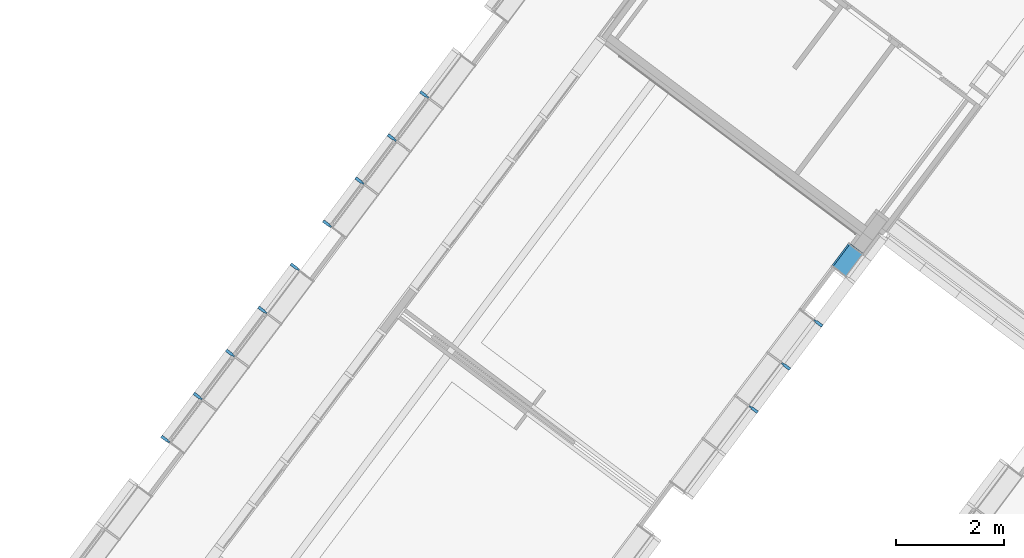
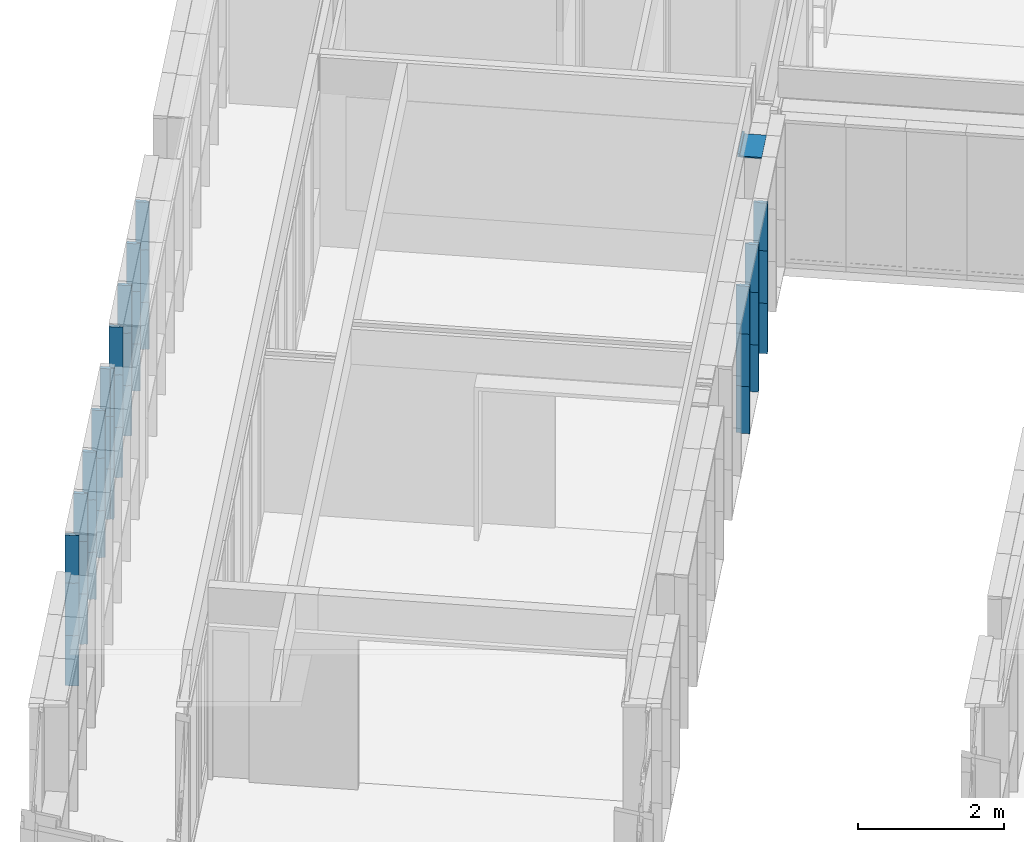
# One storey, part 99 of 243: 37 members, 3 elements without a shape of their own.
"""IFC2X3 building model written with IfcOpenShell, lengths in metres."""

from ifc_helpers import new_model, entity, si_unit, converted_unit, derived_unit, direction, frame, origin, place, context, subcontext, project, spatial, polyline, outline, extrude, source, transform, mapped, material, type_object, type_shapes, element, aggregate, save


model = new_model("IFC2X3")

# Units and contexts
model_context = context("Model", 3, precision=1e-05, world=origin(), true_north=direction((6.123031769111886e-17, 1.0)))
body_context = subcontext(model_context, "Body", "Model", "MODEL_VIEW")
ifc_project = project(units=[si_unit("LENGTHUNIT", "METRE"), si_unit("AREAUNIT", "SQUARE_METRE"), si_unit("VOLUMEUNIT", "CUBIC_METRE"), converted_unit("PLANEANGLEUNIT", "DEGREE", entity("IfcRatioMeasure", 0.017453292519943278), si_unit("PLANEANGLEUNIT", "RADIAN"), dimensions=[0, 0, 0, 0, 0, 0, 0]), si_unit("MASSUNIT", "GRAM", prefix="KILO"), derived_unit("MASSDENSITYUNIT", [(si_unit("MASSUNIT", "GRAM", prefix="KILO"), 1), (si_unit("LENGTHUNIT", "METRE"), -3)]), derived_unit("IONCONCENTRATIONUNIT", [(si_unit("MASSUNIT", "GRAM", prefix="KILO"), 1), (si_unit("LENGTHUNIT", "METRE"), -3)]), derived_unit("MOMENTOFINERTIAUNIT", [(si_unit("LENGTHUNIT", "METRE"), 4)]), si_unit("TIMEUNIT", "SECOND"), si_unit("FREQUENCYUNIT", "HERTZ"), si_unit("THERMODYNAMICTEMPERATUREUNIT", "DEGREE_CELSIUS"), derived_unit("THERMALTRANSMITTANCEUNIT", [(si_unit("MASSUNIT", "GRAM", prefix="KILO"), 1), (si_unit("THERMODYNAMICTEMPERATUREUNIT", "KELVIN"), -1), (si_unit("TIMEUNIT", "SECOND"), -3)]), derived_unit("THERMALCONDUCTANCEUNIT", [(si_unit("MASSUNIT", "GRAM", prefix="KILO"), 1), (si_unit("THERMODYNAMICTEMPERATUREUNIT", "KELVIN"), -1), (si_unit("TIMEUNIT", "SECOND"), -3), (si_unit("LENGTHUNIT", "METRE"), 1)]), derived_unit("VOLUMETRICFLOWRATEUNIT", [(si_unit("LENGTHUNIT", "METRE"), 3), (si_unit("TIMEUNIT", "SECOND"), -1)]), derived_unit("MASSFLOWRATEUNIT", [(si_unit("MASSUNIT", "GRAM", prefix="KILO"), 1), (si_unit("TIMEUNIT", "SECOND"), -1)]), derived_unit("ROTATIONALFREQUENCYUNIT", [(si_unit("TIMEUNIT", "SECOND"), -1)]), si_unit("ELECTRICCURRENTUNIT", "AMPERE"), si_unit("ELECTRICVOLTAGEUNIT", "VOLT"), si_unit("POWERUNIT", "WATT"), si_unit("FORCEUNIT", "NEWTON", prefix="KILO"), si_unit("ILLUMINANCEUNIT", "LUX"), si_unit("LUMINOUSFLUXUNIT", "LUMEN"), si_unit("LUMINOUSINTENSITYUNIT", "CANDELA"), derived_unit("USERDEFINED", [(si_unit("MASSUNIT", "GRAM", prefix="KILO"), -1), (si_unit("LENGTHUNIT", "METRE"), -2), (si_unit("TIMEUNIT", "SECOND"), 3), (si_unit("LUMINOUSFLUXUNIT", "LUMEN"), 1)]), derived_unit("USERDEFINED", [(si_unit("MASSUNIT", "GRAM", prefix="KILO"), 1), (si_unit("TIMEUNIT", "SECOND"), -3), (si_unit("LENGTHUNIT", "METRE"), 3), (si_unit("ELECTRICCURRENTUNIT", "AMPERE"), -2)]), derived_unit("SOUNDPOWERUNIT", [(si_unit("MASSUNIT", "GRAM", prefix="KILO"), 1), (si_unit("TIMEUNIT", "SECOND"), -3), (si_unit("LENGTHUNIT", "METRE"), 2)]), derived_unit("SOUNDPRESSUREUNIT", [(si_unit("MASSUNIT", "GRAM", prefix="KILO"), 1), (si_unit("LENGTHUNIT", "METRE"), -1), (si_unit("TIMEUNIT", "SECOND"), -2)]), derived_unit("LINEARVELOCITYUNIT", [(si_unit("LENGTHUNIT", "METRE"), 1), (si_unit("TIMEUNIT", "SECOND"), -1)]), si_unit("PRESSUREUNIT", "PASCAL"), derived_unit("USERDEFINED", [(si_unit("MASSUNIT", "GRAM", prefix="KILO"), 1), (si_unit("LENGTHUNIT", "METRE"), -2), (si_unit("TIMEUNIT", "SECOND"), -2)]), derived_unit("LINEARFORCEUNIT", [(si_unit("MASSUNIT", "GRAM", prefix="KILO"), 1), (si_unit("TIMEUNIT", "SECOND"), -2)]), derived_unit("PLANARFORCEUNIT", [(si_unit("MASSUNIT", "GRAM", prefix="KILO"), 1), (si_unit("LENGTHUNIT", "METRE"), -1), (si_unit("TIMEUNIT", "SECOND"), -2)]), derived_unit("SPECIFICHEATCAPACITYUNIT", [(si_unit("THERMODYNAMICTEMPERATUREUNIT", "KELVIN"), -1), (si_unit("LENGTHUNIT", "METRE"), 2), (si_unit("TIMEUNIT", "SECOND"), -2)]), derived_unit("HEATINGVALUEUNIT", [(si_unit("LENGTHUNIT", "METRE"), 2), (si_unit("TIMEUNIT", "SECOND"), -2)]), derived_unit("VAPORPERMEABILITYUNIT", [(si_unit("LENGTHUNIT", "METRE"), -1), (si_unit("TIMEUNIT", "SECOND"), 1)]), derived_unit("DYNAMICVISCOSITYUNIT", [(si_unit("MASSUNIT", "GRAM", prefix="KILO"), 1), (si_unit("TIMEUNIT", "SECOND"), -1), (si_unit("LENGTHUNIT", "METRE"), -1)]), derived_unit("THERMALEXPANSIONCOEFFICIENTUNIT", [(si_unit("THERMODYNAMICTEMPERATUREUNIT", "KELVIN"), -1)]), derived_unit("MODULUSOFELASTICITYUNIT", [(si_unit("MASSUNIT", "GRAM", prefix="KILO"), 1), (si_unit("LENGTHUNIT", "METRE"), -1), (si_unit("TIMEUNIT", "SECOND"), -2)]), derived_unit("ISOTHERMALMOISTURECAPACITYUNIT", [(si_unit("LENGTHUNIT", "METRE"), 3), (si_unit("MASSUNIT", "GRAM", prefix="KILO"), -1)]), derived_unit("MOISTUREDIFFUSIVITYUNIT", [(si_unit("TIMEUNIT", "SECOND"), -1), (si_unit("LENGTHUNIT", "METRE"), 2)])], contexts=[model_context])

# Site, building, storey
site_placement = place(None, frame((0.0, 0.0, 235.0), z_axis=(0.0, 0.0, 1.0), x_axis=(-0.7996477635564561, 0.6004693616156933, 0.0)))
site = spatial("IfcSite", under=ifc_project, at=site_placement, Name="Default", CompositionType="ELEMENT")
building_placement = place(site_placement, origin())
building = spatial("IfcBuilding", under=site, at=building_placement, CompositionType="ELEMENT")
storey_placement = place(building_placement, origin())
storey = spatial("IfcBuildingStorey", under=building, at=storey_placement, Name="P0- Escola", CompositionType="ELEMENT", Elevation=0.0)

# Curtain wall, members
curtain_wall_type_1 = type_object("IfcCurtainWallType", Name="Muro cortina:MC- EXT- MC2", PredefinedType="NOTDEFINED")
curtain_wall_1_placement = place(storey_placement, origin())
curtain_wall_1 = element("IfcCurtainWall", 1, at=curtain_wall_1_placement, inside=storey, type_object=curtain_wall_type_1, Name="Muro cortina:MC- EXT- MC2", ObjectType="Muro cortina:MC- EXT- MC2")
ifc_material_1 = material(Name="_Alumini- T1- Perfil")
member_type_1 = type_object("IfcMemberType", Name="Montante rectangular:MC- Alu- 140x52,5 cm- Fa patis- Centre", PredefinedType="MULLION", material=ifc_material_1)
shared_shape_1 = source(origin(), body_context, "Body", "SweptSolid", [
    extrude(outline(polyline([(-0.11699999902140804, -0.026250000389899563), (0.021999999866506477, -0.026250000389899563), (0.021999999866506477, -0.01500000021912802), (0.07299999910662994, -0.01500000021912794), (0.07299999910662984, 0.015000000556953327), (0.02200000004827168, 0.015000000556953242), (0.02200000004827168, 0.026250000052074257), (-0.11699999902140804, 0.026250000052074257), (-0.11699999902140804, -0.026250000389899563)])), frame((0.0, 0.022999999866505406, -0.8400000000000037), z_axis=(0.0, 0.0, 1.0), x_axis=(0.0, -1.0, 0.0)), (0.0, 0.0, 1.0), 0.8400000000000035),
])
type_shapes(member_type_1, [shared_shape_1])
member_1_placement = place(curtain_wall_1_placement, frame((66.44514768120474, -34.415191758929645, -0.02), z_axis=(0.0, 0.0, -1.0), x_axis=(0.0, -1.0, 0.0)))
member_1 = element("IfcMember", 2, at=member_1_placement, type_object=member_type_1, material=ifc_material_1, Name="Montante rectangular:MC- Alu- 140x52,5 cm- Fa patis- Centre", ObjectType="Montante rectangular:MC- Alu- 140x52,5 cm- Fa patis- Centre", context=body_context, shape_type="MappedRepresentation", body=[
    mapped(shared_shape_1, transform((0.0, 0.0, 0.0), scale=1.0)),
])
member_type_2 = type_object("IfcMemberType", Name="Montante rectangular:MC- Alu- 140x52,5 cm- Fa patis- Centre", PredefinedType="MULLION", material=ifc_material_1)
shared_shape_2 = source(origin(), body_context, "Body", "SweptSolid", [
    extrude(outline(polyline([(-0.11699999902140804, -0.026250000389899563), (0.021999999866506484, -0.026250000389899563), (0.021999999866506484, -0.01500000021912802), (0.07299999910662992, -0.01500000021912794), (0.07299999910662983, 0.015000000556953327), (0.022000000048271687, 0.015000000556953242), (0.022000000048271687, 0.026250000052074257), (-0.11699999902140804, 0.026250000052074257), (-0.11699999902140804, -0.026250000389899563)])), frame((0.0, 0.022999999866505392, -0.7850000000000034), z_axis=(0.0, 0.0, 1.0), x_axis=(0.0, -1.0, 0.0)), (0.0, 0.0, 1.0), 0.7850000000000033),
])
type_shapes(member_type_2, [shared_shape_2])
member_2_placement = place(curtain_wall_1_placement, frame((66.44514768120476, -32.41519175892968, 0.035000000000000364), z_axis=(0.0, 0.0, -1.0), x_axis=(0.0, -1.0, 0.0)))
member_2 = element("IfcMember", 3, at=member_2_placement, type_object=member_type_2, material=ifc_material_1, Name="Montante rectangular:MC- Alu- 140x52,5 cm- Fa patis- Centre", ObjectType="Montante rectangular:MC- Alu- 140x52,5 cm- Fa patis- Centre", context=body_context, shape_type="MappedRepresentation", body=[
    mapped(shared_shape_2, transform((0.0, 0.0, 0.0), scale=1.0)),
])
member_3_placement = place(curtain_wall_1_placement, frame((66.44514768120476, -33.41519175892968, 0.035000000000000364), z_axis=(0.0, 0.0, -1.0), x_axis=(0.0, -1.0, 0.0)))
member_3 = element("IfcMember", 4, at=member_3_placement, type_object=member_type_2, material=ifc_material_1, Name="Montante rectangular:MC- Alu- 140x52,5 cm- Fa patis- Centre", ObjectType="Montante rectangular:MC- Alu- 140x52,5 cm- Fa patis- Centre", context=body_context, shape_type="MappedRepresentation", body=[
    mapped(shared_shape_2, transform((0.0, 0.0, 0.0), scale=1.0)),
])
member_type_3 = type_object("IfcMemberType", Name="Montante rectangular:MC- Alu- 140x52,5 cm- Fa patis- Centre", PredefinedType="MULLION", material=ifc_material_1)
shared_shape_3 = source(origin(), body_context, "Body", "SweptSolid", [
    extrude(outline(polyline([(-0.11699999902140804, -0.026250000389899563), (0.021999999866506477, -0.026250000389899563), (0.021999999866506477, -0.01500000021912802), (0.07299999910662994, -0.01500000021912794), (0.07299999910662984, 0.015000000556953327), (0.02200000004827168, 0.015000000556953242), (0.02200000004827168, 0.026250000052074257), (-0.11699999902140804, 0.026250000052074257), (-0.11699999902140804, -0.026250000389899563)])), frame((0.0, 0.022999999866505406, -0.8750000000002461), z_axis=(0.0, 0.0, 1.0), x_axis=(0.0, -1.0, 0.0)), (0.0, 0.0, 1.0), 0.8750000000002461),
])
type_shapes(member_type_3, [shared_shape_3])
member_4_placement = place(curtain_wall_1_placement, frame((66.44514768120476, -32.41519175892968, 0.8200000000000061), z_axis=(0.0, 0.0, -1.0), x_axis=(0.0, -1.0, 0.0)))
member_4 = element("IfcMember", 5, at=member_4_placement, type_object=member_type_3, material=ifc_material_1, Name="Montante rectangular:MC- Alu- 140x52,5 cm- Fa patis- Centre", ObjectType="Montante rectangular:MC- Alu- 140x52,5 cm- Fa patis- Centre", context=body_context, shape_type="MappedRepresentation", body=[
    mapped(shared_shape_3, transform((0.0, 0.0, 0.0), scale=1.0)),
])
member_5_placement = place(curtain_wall_1_placement, frame((66.44514768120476, -33.41519175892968, 0.8200000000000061), z_axis=(0.0, 0.0, -1.0), x_axis=(0.0, -1.0, 0.0)))
member_5 = element("IfcMember", 6, at=member_5_placement, type_object=member_type_3, material=ifc_material_1, Name="Montante rectangular:MC- Alu- 140x52,5 cm- Fa patis- Centre", ObjectType="Montante rectangular:MC- Alu- 140x52,5 cm- Fa patis- Centre", context=body_context, shape_type="MappedRepresentation", body=[
    mapped(shared_shape_3, transform((0.0, 0.0, 0.0), scale=1.0)),
])
member_6_placement = place(curtain_wall_1_placement, frame((66.44514768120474, -34.415191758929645, 0.8200000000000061), z_axis=(0.0, 0.0, -1.0), x_axis=(0.0, -1.0, 0.0)))
member_6 = element("IfcMember", 7, at=member_6_placement, type_object=member_type_3, material=ifc_material_1, Name="Montante rectangular:MC- Alu- 140x52,5 cm- Fa patis- Centre", ObjectType="Montante rectangular:MC- Alu- 140x52,5 cm- Fa patis- Centre", context=body_context, shape_type="MappedRepresentation", body=[
    mapped(shared_shape_3, transform((0.0, 0.0, 0.0), scale=1.0)),
])

# Curtain wall, member
curtain_wall_type_2 = type_object("IfcCurtainWallType", Name="Muro cortina:MC- INT- k7- Aules infantil", PredefinedType="NOTDEFINED")
curtain_wall_2_placement = place(storey_placement, origin())
curtain_wall_2 = element("IfcCurtainWall", 8, at=curtain_wall_2_placement, inside=storey, type_object=curtain_wall_type_2, Name="Muro cortina:MC- INT- k7- Aules infantil", ObjectType="Muro cortina:MC- INT- k7- Aules infantil")
ifc_material_2 = material(Name="_Fusta massisa- T1")
member_type_4 = type_object("IfcMemberType", Name="Montante rectangular:MC- Fusta- 35x3 cm- Pati aules- Remat superior", PredefinedType="MULLION", material=ifc_material_2)
shared_shape_4 = source(origin(), body_context, "Body", "SweptSolid", [
    extrude(outline(polyline([(-0.21333333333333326, -0.02666666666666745), (0.1216666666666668, -0.02666666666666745), (0.12166666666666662, 0.03333333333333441), (0.09166666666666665, 0.03333333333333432), (0.09166666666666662, -0.006666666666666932), (-0.2133333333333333, -0.006666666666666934), (-0.21333333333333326, -0.02666666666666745)])), frame((-0.033333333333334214, 0.026666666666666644, -0.5379982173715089), z_axis=(0.0, 0.0, 1.0), x_axis=(0.0, -1.0, 0.0)), (0.0, 0.0, 1.0), 0.5379982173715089),
])
type_shapes(member_type_4, [shared_shape_4])
member_7_placement = place(curtain_wall_2_placement, frame((66.745147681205, -35.9531899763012, 2.565), z_axis=(0.0, -1.0, 0.0), x_axis=(0.0, 0.0, 1.0)))
member_7 = element("IfcMember", 9, at=member_7_placement, type_object=member_type_4, material=ifc_material_2, Name="Montante rectangular:MC- Fusta- 35x3 cm- Pati aules- Remat superior", ObjectType="Montante rectangular:MC- Fusta- 35x3 cm- Pati aules- Remat superior", context=body_context, shape_type="MappedRepresentation", body=[
    mapped(shared_shape_4, transform((0.0, 0.0, 0.0), scale=1.0)),
])
aggregate(curtain_wall_2, [member_7])

# Member
member_type_5 = type_object("IfcMemberType", Name="Montante rectangular:MC- Alu- 140x52,5 cm- Fa patis- Centre", PredefinedType="MULLION", material=ifc_material_1)
shared_shape_5 = source(origin(), body_context, "Body", "SweptSolid", [
    extrude(outline(polyline([(-0.11699999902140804, -0.026250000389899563), (0.021999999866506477, -0.026250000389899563), (0.021999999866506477, -0.01500000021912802), (0.07299999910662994, -0.01500000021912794), (0.07299999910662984, 0.015000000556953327), (0.02200000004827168, 0.015000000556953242), (0.02200000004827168, 0.026250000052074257), (-0.11699999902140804, 0.026250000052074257), (-0.11699999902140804, -0.026250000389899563)])), frame((0.0, 0.022999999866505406, -0.79749999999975), z_axis=(0.0, 0.0, 1.0), x_axis=(0.0, -1.0, 0.0)), (0.0, 0.0, 1.0), 0.79749999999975),
])
type_shapes(member_type_5, [shared_shape_5])
member_8_placement = place(curtain_wall_1_placement, frame((66.44514768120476, -32.41519175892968, 1.6950000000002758), z_axis=(0.0, 0.0, -1.0), x_axis=(0.0, -1.0, 0.0)))
member_8 = element("IfcMember", 10, at=member_8_placement, type_object=member_type_5, material=ifc_material_1, Name="Montante rectangular:MC- Alu- 140x52,5 cm- Fa patis- Centre", ObjectType="Montante rectangular:MC- Alu- 140x52,5 cm- Fa patis- Centre", context=body_context, shape_type="MappedRepresentation", body=[
    mapped(shared_shape_5, transform((0.0, 0.0, 0.0), scale=1.0)),
])

member_9_placement = place(curtain_wall_1_placement, frame((66.44514768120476, -33.41519175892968, 1.6950000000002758), z_axis=(0.0, 0.0, -1.0), x_axis=(0.0, -1.0, 0.0)))
member_9 = element("IfcMember", 11, at=member_9_placement, type_object=member_type_5, material=ifc_material_1, Name="Montante rectangular:MC- Alu- 140x52,5 cm- Fa patis- Centre", ObjectType="Montante rectangular:MC- Alu- 140x52,5 cm- Fa patis- Centre", context=body_context, shape_type="MappedRepresentation", body=[
    mapped(shared_shape_5, transform((0.0, 0.0, 0.0), scale=1.0)),
])

member_10_placement = place(curtain_wall_1_placement, frame((66.44514768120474, -34.415191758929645, 1.6950000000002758), z_axis=(0.0, 0.0, -1.0), x_axis=(0.0, -1.0, 0.0)))
member_10 = element("IfcMember", 12, at=member_10_placement, type_object=member_type_5, material=ifc_material_1, Name="Montante rectangular:MC- Alu- 140x52,5 cm- Fa patis- Centre", ObjectType="Montante rectangular:MC- Alu- 140x52,5 cm- Fa patis- Centre", context=body_context, shape_type="MappedRepresentation", body=[
    mapped(shared_shape_5, transform((0.0, 0.0, 0.0), scale=1.0)),
])

aggregate(curtain_wall_1, [member_2, member_3, member_1, member_4, member_5, member_6, member_8, member_9, member_10])

# Curtain wall, members
curtain_wall_type_3 = type_object("IfcCurtainWallType", Name="Muro cortina:MC- EXT- MC5", PredefinedType="NOTDEFINED")
curtain_wall_3_placement = place(storey_placement, origin())
curtain_wall_3 = element("IfcCurtainWall", 13, at=curtain_wall_3_placement, inside=storey, type_object=curtain_wall_type_3, Name="Muro cortina:MC- EXT- MC5", ObjectType="Muro cortina:MC- EXT- MC5")
member_type_6 = type_object("IfcMemberType", Name="Montante rectangular:MC- Alu- 140x52,5 cm- Fa patis- Centre", PredefinedType="MULLION", material=ifc_material_1)
shared_shape_6 = source(origin(), body_context, "Body", "SweptSolid", [
    extrude(outline(polyline([(-0.021999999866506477, -0.026250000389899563), (0.11699999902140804, -0.026250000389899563), (0.11699999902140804, 0.026250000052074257), (-0.02200000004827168, 0.026250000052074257), (-0.02200000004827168, 0.015000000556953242), (-0.07299999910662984, 0.015000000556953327), (-0.07299999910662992, -0.01500000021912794), (-0.021999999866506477, -0.01500000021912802), (-0.021999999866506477, -0.026250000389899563)])), frame((0.0, -0.022999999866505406, -0.8400000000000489), z_axis=(0.0, 0.0, 1.0), x_axis=(0.0, -1.0, 0.0)), (0.0, 0.0, 1.0), 0.8400000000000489),
])
type_shapes(member_type_6, [shared_shape_6])
member_11_placement = place(curtain_wall_3_placement, frame((74.7451476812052, -26.415191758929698, -0.02), z_axis=(0.0, 0.0, -1.0), x_axis=(0.0, -1.0, 0.0)))
member_11 = element("IfcMember", 14, at=member_11_placement, type_object=member_type_6, material=ifc_material_1, Name="Montante rectangular:MC- Alu- 140x52,5 cm- Fa patis- Centre", ObjectType="Montante rectangular:MC- Alu- 140x52,5 cm- Fa patis- Centre", context=body_context, shape_type="MappedRepresentation", body=[
    mapped(shared_shape_6, transform((0.0, 0.0, 0.0), scale=1.0)),
])
member_12_placement = place(curtain_wall_3_placement, frame((74.74514768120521, -29.41519175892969, -0.02), z_axis=(0.0, 0.0, -1.0), x_axis=(0.0, -1.0, 0.0)))
member_12 = element("IfcMember", 15, at=member_12_placement, type_object=member_type_6, material=ifc_material_1, Name="Montante rectangular:MC- Alu- 140x52,5 cm- Fa patis- Centre", ObjectType="Montante rectangular:MC- Alu- 140x52,5 cm- Fa patis- Centre", context=body_context, shape_type="MappedRepresentation", body=[
    mapped(shared_shape_6, transform((0.0, 0.0, 0.0), scale=1.0)),
])
member_13_placement = place(curtain_wall_3_placement, frame((74.74514768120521, -31.415191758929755, -0.02), z_axis=(0.0, 0.0, -1.0), x_axis=(0.0, -1.0, 0.0)))
member_13 = element("IfcMember", 16, at=member_13_placement, type_object=member_type_6, material=ifc_material_1, Name="Montante rectangular:MC- Alu- 140x52,5 cm- Fa patis- Centre", ObjectType="Montante rectangular:MC- Alu- 140x52,5 cm- Fa patis- Centre", context=body_context, shape_type="MappedRepresentation", body=[
    mapped(shared_shape_6, transform((0.0, 0.0, 0.0), scale=1.0)),
])
member_14_placement = place(curtain_wall_3_placement, frame((74.74514768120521, -30.415191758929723, -0.02), z_axis=(0.0, 0.0, -1.0), x_axis=(0.0, -1.0, 0.0)))
member_14 = element("IfcMember", 17, at=member_14_placement, type_object=member_type_6, material=ifc_material_1, Name="Montante rectangular:MC- Alu- 140x52,5 cm- Fa patis- Centre", ObjectType="Montante rectangular:MC- Alu- 140x52,5 cm- Fa patis- Centre", context=body_context, shape_type="MappedRepresentation", body=[
    mapped(shared_shape_6, transform((0.0, 0.0, 0.0), scale=1.0)),
])
member_15_placement = place(curtain_wall_3_placement, frame((74.7451476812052, -25.415191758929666, -0.02), z_axis=(0.0, 0.0, -1.0), x_axis=(0.0, -1.0, 0.0)))
member_15 = element("IfcMember", 18, at=member_15_placement, type_object=member_type_6, material=ifc_material_1, Name="Montante rectangular:MC- Alu- 140x52,5 cm- Fa patis- Centre", ObjectType="Montante rectangular:MC- Alu- 140x52,5 cm- Fa patis- Centre", context=body_context, shape_type="MappedRepresentation", body=[
    mapped(shared_shape_6, transform((0.0, 0.0, 0.0), scale=1.0)),
])
member_type_7 = type_object("IfcMemberType", Name="Montante rectangular:MC- Alu- 140x52,5 cm- Fa patis- Centre", PredefinedType="MULLION", material=ifc_material_1)
shared_shape_7 = source(origin(), body_context, "Body", "SweptSolid", [
    extrude(outline(polyline([(-0.021999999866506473, -0.026250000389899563), (0.11699999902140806, -0.026250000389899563), (0.11699999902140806, 0.026250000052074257), (-0.022000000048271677, 0.026250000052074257), (-0.022000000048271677, 0.015000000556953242), (-0.07299999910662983, 0.015000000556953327), (-0.07299999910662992, -0.01500000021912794), (-0.021999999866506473, -0.01500000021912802), (-0.021999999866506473, -0.026250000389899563)])), frame((0.0, -0.022999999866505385, -0.7850000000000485), z_axis=(0.0, 0.0, 1.0), x_axis=(0.0, -1.0, 0.0)), (0.0, 0.0, 1.0), 0.7850000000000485),
])
type_shapes(member_type_7, [shared_shape_7])
member_16_placement = place(curtain_wall_3_placement, frame((74.7451476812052, -27.415191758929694, 0.035000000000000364), z_axis=(0.0, 0.0, -1.0), x_axis=(0.0, -1.0, 0.0)))
member_16 = element("IfcMember", 19, at=member_16_placement, type_object=member_type_7, material=ifc_material_1, Name="Montante rectangular:MC- Alu- 140x52,5 cm- Fa patis- Centre", ObjectType="Montante rectangular:MC- Alu- 140x52,5 cm- Fa patis- Centre", context=body_context, shape_type="MappedRepresentation", body=[
    mapped(shared_shape_7, transform((0.0, 0.0, 0.0), scale=1.0)),
])
member_17_placement = place(curtain_wall_3_placement, frame((74.74514768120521, -28.415191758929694, 0.035000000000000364), z_axis=(0.0, 0.0, -1.0), x_axis=(0.0, -1.0, 0.0)))
member_17 = element("IfcMember", 20, at=member_17_placement, type_object=member_type_7, material=ifc_material_1, Name="Montante rectangular:MC- Alu- 140x52,5 cm- Fa patis- Centre", ObjectType="Montante rectangular:MC- Alu- 140x52,5 cm- Fa patis- Centre", context=body_context, shape_type="MappedRepresentation", body=[
    mapped(shared_shape_7, transform((0.0, 0.0, 0.0), scale=1.0)),
])
member_18_placement = place(curtain_wall_3_placement, frame((74.74514768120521, -32.41519175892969, 0.035000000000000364), z_axis=(0.0, 0.0, -1.0), x_axis=(0.0, -1.0, 0.0)))
member_18 = element("IfcMember", 21, at=member_18_placement, type_object=member_type_7, material=ifc_material_1, Name="Montante rectangular:MC- Alu- 140x52,5 cm- Fa patis- Centre", ObjectType="Montante rectangular:MC- Alu- 140x52,5 cm- Fa patis- Centre", context=body_context, shape_type="MappedRepresentation", body=[
    mapped(shared_shape_7, transform((0.0, 0.0, 0.0), scale=1.0)),
])
member_19_placement = place(curtain_wall_3_placement, frame((74.74514768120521, -33.41519175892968, 0.035000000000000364), z_axis=(0.0, 0.0, -1.0), x_axis=(0.0, -1.0, 0.0)))
member_19 = element("IfcMember", 22, at=member_19_placement, type_object=member_type_7, material=ifc_material_1, Name="Montante rectangular:MC- Alu- 140x52,5 cm- Fa patis- Centre", ObjectType="Montante rectangular:MC- Alu- 140x52,5 cm- Fa patis- Centre", context=body_context, shape_type="MappedRepresentation", body=[
    mapped(shared_shape_7, transform((0.0, 0.0, 0.0), scale=1.0)),
])
member_type_8 = type_object("IfcMemberType", Name="Montante rectangular:MC- Alu- 140x52,5 cm- Fa patis- Centre", PredefinedType="MULLION", material=ifc_material_1)
shared_shape_8 = source(origin(), body_context, "Body", "SweptSolid", [
    extrude(outline(polyline([(-0.021999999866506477, -0.026250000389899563), (0.11699999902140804, -0.026250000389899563), (0.11699999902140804, 0.026250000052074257), (-0.02200000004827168, 0.026250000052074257), (-0.02200000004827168, 0.015000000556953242), (-0.07299999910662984, 0.015000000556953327), (-0.07299999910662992, -0.01500000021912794), (-0.021999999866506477, -0.01500000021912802), (-0.021999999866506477, -0.026250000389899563)])), frame((0.0, -0.022999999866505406, -0.8750000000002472), z_axis=(0.0, 0.0, 1.0), x_axis=(0.0, -1.0, 0.0)), (0.0, 0.0, 1.0), 0.8750000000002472),
])
type_shapes(member_type_8, [shared_shape_8])
member_20_placement = place(curtain_wall_3_placement, frame((74.7451476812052, -25.415191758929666, 0.8200000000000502), z_axis=(0.0, 0.0, -1.0), x_axis=(0.0, -1.0, 0.0)))
member_20 = element("IfcMember", 23, at=member_20_placement, type_object=member_type_8, material=ifc_material_1, Name="Montante rectangular:MC- Alu- 140x52,5 cm- Fa patis- Centre", ObjectType="Montante rectangular:MC- Alu- 140x52,5 cm- Fa patis- Centre", context=body_context, shape_type="MappedRepresentation", body=[
    mapped(shared_shape_8, transform((0.0, 0.0, 0.0), scale=1.0)),
])
member_21_placement = place(curtain_wall_3_placement, frame((74.7451476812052, -26.415191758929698, 0.8200000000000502), z_axis=(0.0, 0.0, -1.0), x_axis=(0.0, -1.0, 0.0)))
member_21 = element("IfcMember", 24, at=member_21_placement, type_object=member_type_8, material=ifc_material_1, Name="Montante rectangular:MC- Alu- 140x52,5 cm- Fa patis- Centre", ObjectType="Montante rectangular:MC- Alu- 140x52,5 cm- Fa patis- Centre", context=body_context, shape_type="MappedRepresentation", body=[
    mapped(shared_shape_8, transform((0.0, 0.0, 0.0), scale=1.0)),
])
member_22_placement = place(curtain_wall_3_placement, frame((74.7451476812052, -27.415191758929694, 0.8200000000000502), z_axis=(0.0, 0.0, -1.0), x_axis=(0.0, -1.0, 0.0)))
member_22 = element("IfcMember", 25, at=member_22_placement, type_object=member_type_8, material=ifc_material_1, Name="Montante rectangular:MC- Alu- 140x52,5 cm- Fa patis- Centre", ObjectType="Montante rectangular:MC- Alu- 140x52,5 cm- Fa patis- Centre", context=body_context, shape_type="MappedRepresentation", body=[
    mapped(shared_shape_8, transform((0.0, 0.0, 0.0), scale=1.0)),
])
member_23_placement = place(curtain_wall_3_placement, frame((74.74514768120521, -28.415191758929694, 0.8200000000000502), z_axis=(0.0, 0.0, -1.0), x_axis=(0.0, -1.0, 0.0)))
member_23 = element("IfcMember", 26, at=member_23_placement, type_object=member_type_8, material=ifc_material_1, Name="Montante rectangular:MC- Alu- 140x52,5 cm- Fa patis- Centre", ObjectType="Montante rectangular:MC- Alu- 140x52,5 cm- Fa patis- Centre", context=body_context, shape_type="MappedRepresentation", body=[
    mapped(shared_shape_8, transform((0.0, 0.0, 0.0), scale=1.0)),
])
member_24_placement = place(curtain_wall_3_placement, frame((74.74514768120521, -29.41519175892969, 0.8200000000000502), z_axis=(0.0, 0.0, -1.0), x_axis=(0.0, -1.0, 0.0)))
member_24 = element("IfcMember", 27, at=member_24_placement, type_object=member_type_8, material=ifc_material_1, Name="Montante rectangular:MC- Alu- 140x52,5 cm- Fa patis- Centre", ObjectType="Montante rectangular:MC- Alu- 140x52,5 cm- Fa patis- Centre", context=body_context, shape_type="MappedRepresentation", body=[
    mapped(shared_shape_8, transform((0.0, 0.0, 0.0), scale=1.0)),
])
member_25_placement = place(curtain_wall_3_placement, frame((74.74514768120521, -30.415191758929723, 0.8200000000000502), z_axis=(0.0, 0.0, -1.0), x_axis=(0.0, -1.0, 0.0)))
member_25 = element("IfcMember", 28, at=member_25_placement, type_object=member_type_8, material=ifc_material_1, Name="Montante rectangular:MC- Alu- 140x52,5 cm- Fa patis- Centre", ObjectType="Montante rectangular:MC- Alu- 140x52,5 cm- Fa patis- Centre", context=body_context, shape_type="MappedRepresentation", body=[
    mapped(shared_shape_8, transform((0.0, 0.0, 0.0), scale=1.0)),
])
member_26_placement = place(curtain_wall_3_placement, frame((74.74514768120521, -31.415191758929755, 0.8200000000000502), z_axis=(0.0, 0.0, -1.0), x_axis=(0.0, -1.0, 0.0)))
member_26 = element("IfcMember", 29, at=member_26_placement, type_object=member_type_8, material=ifc_material_1, Name="Montante rectangular:MC- Alu- 140x52,5 cm- Fa patis- Centre", ObjectType="Montante rectangular:MC- Alu- 140x52,5 cm- Fa patis- Centre", context=body_context, shape_type="MappedRepresentation", body=[
    mapped(shared_shape_8, transform((0.0, 0.0, 0.0), scale=1.0)),
])
member_27_placement = place(curtain_wall_3_placement, frame((74.74514768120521, -32.41519175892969, 0.8200000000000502), z_axis=(0.0, 0.0, -1.0), x_axis=(0.0, -1.0, 0.0)))
member_27 = element("IfcMember", 30, at=member_27_placement, type_object=member_type_8, material=ifc_material_1, Name="Montante rectangular:MC- Alu- 140x52,5 cm- Fa patis- Centre", ObjectType="Montante rectangular:MC- Alu- 140x52,5 cm- Fa patis- Centre", context=body_context, shape_type="MappedRepresentation", body=[
    mapped(shared_shape_8, transform((0.0, 0.0, 0.0), scale=1.0)),
])
member_28_placement = place(curtain_wall_3_placement, frame((74.74514768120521, -33.41519175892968, 0.8200000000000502), z_axis=(0.0, 0.0, -1.0), x_axis=(0.0, -1.0, 0.0)))
member_28 = element("IfcMember", 31, at=member_28_placement, type_object=member_type_8, material=ifc_material_1, Name="Montante rectangular:MC- Alu- 140x52,5 cm- Fa patis- Centre", ObjectType="Montante rectangular:MC- Alu- 140x52,5 cm- Fa patis- Centre", context=body_context, shape_type="MappedRepresentation", body=[
    mapped(shared_shape_8, transform((0.0, 0.0, 0.0), scale=1.0)),
])
member_type_9 = type_object("IfcMemberType", Name="Montante rectangular:MC- Alu- 140x52,5 cm- Fa patis- Centre", PredefinedType="MULLION", material=ifc_material_1)
shared_shape_9 = source(origin(), body_context, "Body", "SweptSolid", [
    extrude(outline(polyline([(-0.021999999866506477, -0.026250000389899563), (0.11699999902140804, -0.026250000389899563), (0.11699999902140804, 0.026250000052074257), (-0.02200000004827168, 0.026250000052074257), (-0.02200000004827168, 0.015000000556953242), (-0.07299999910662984, 0.015000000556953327), (-0.07299999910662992, -0.01500000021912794), (-0.021999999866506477, -0.01500000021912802), (-0.021999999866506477, -0.026250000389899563)])), frame((0.0, -0.022999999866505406, -0.7974999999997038), z_axis=(0.0, 0.0, 1.0), x_axis=(0.0, -1.0, 0.0)), (0.0, 0.0, 1.0), 0.7974999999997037),
])
type_shapes(member_type_9, [shared_shape_9])
member_29_placement = place(curtain_wall_3_placement, frame((74.7451476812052, -25.415191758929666, 1.6950000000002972), z_axis=(0.0, 0.0, -1.0), x_axis=(0.0, -1.0, 0.0)))
member_29 = element("IfcMember", 32, at=member_29_placement, type_object=member_type_9, material=ifc_material_1, Name="Montante rectangular:MC- Alu- 140x52,5 cm- Fa patis- Centre", ObjectType="Montante rectangular:MC- Alu- 140x52,5 cm- Fa patis- Centre", context=body_context, shape_type="MappedRepresentation", body=[
    mapped(shared_shape_9, transform((0.0, 0.0, 0.0), scale=1.0)),
])
member_30_placement = place(curtain_wall_3_placement, frame((74.7451476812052, -26.415191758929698, 1.6950000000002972), z_axis=(0.0, 0.0, -1.0), x_axis=(0.0, -1.0, 0.0)))
member_30 = element("IfcMember", 33, at=member_30_placement, type_object=member_type_9, material=ifc_material_1, Name="Montante rectangular:MC- Alu- 140x52,5 cm- Fa patis- Centre", ObjectType="Montante rectangular:MC- Alu- 140x52,5 cm- Fa patis- Centre", context=body_context, shape_type="MappedRepresentation", body=[
    mapped(shared_shape_9, transform((0.0, 0.0, 0.0), scale=1.0)),
])
member_31_placement = place(curtain_wall_3_placement, frame((74.7451476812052, -27.415191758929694, 1.6950000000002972), z_axis=(0.0, 0.0, -1.0), x_axis=(0.0, -1.0, 0.0)))
member_31 = element("IfcMember", 34, at=member_31_placement, type_object=member_type_9, material=ifc_material_1, Name="Montante rectangular:MC- Alu- 140x52,5 cm- Fa patis- Centre", ObjectType="Montante rectangular:MC- Alu- 140x52,5 cm- Fa patis- Centre", context=body_context, shape_type="MappedRepresentation", body=[
    mapped(shared_shape_9, transform((0.0, 0.0, 0.0), scale=1.0)),
])
member_32_placement = place(curtain_wall_3_placement, frame((74.74514768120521, -28.415191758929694, 1.6950000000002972), z_axis=(0.0, 0.0, -1.0), x_axis=(0.0, -1.0, 0.0)))
member_32 = element("IfcMember", 35, at=member_32_placement, type_object=member_type_9, material=ifc_material_1, Name="Montante rectangular:MC- Alu- 140x52,5 cm- Fa patis- Centre", ObjectType="Montante rectangular:MC- Alu- 140x52,5 cm- Fa patis- Centre", context=body_context, shape_type="MappedRepresentation", body=[
    mapped(shared_shape_9, transform((0.0, 0.0, 0.0), scale=1.0)),
])
member_33_placement = place(curtain_wall_3_placement, frame((74.74514768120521, -29.41519175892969, 1.6950000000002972), z_axis=(0.0, 0.0, -1.0), x_axis=(0.0, -1.0, 0.0)))
member_33 = element("IfcMember", 36, at=member_33_placement, type_object=member_type_9, material=ifc_material_1, Name="Montante rectangular:MC- Alu- 140x52,5 cm- Fa patis- Centre", ObjectType="Montante rectangular:MC- Alu- 140x52,5 cm- Fa patis- Centre", context=body_context, shape_type="MappedRepresentation", body=[
    mapped(shared_shape_9, transform((0.0, 0.0, 0.0), scale=1.0)),
])
member_34_placement = place(curtain_wall_3_placement, frame((74.74514768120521, -30.415191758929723, 1.6950000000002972), z_axis=(0.0, 0.0, -1.0), x_axis=(0.0, -1.0, 0.0)))
member_34 = element("IfcMember", 37, at=member_34_placement, type_object=member_type_9, material=ifc_material_1, Name="Montante rectangular:MC- Alu- 140x52,5 cm- Fa patis- Centre", ObjectType="Montante rectangular:MC- Alu- 140x52,5 cm- Fa patis- Centre", context=body_context, shape_type="MappedRepresentation", body=[
    mapped(shared_shape_9, transform((0.0, 0.0, 0.0), scale=1.0)),
])
member_35_placement = place(curtain_wall_3_placement, frame((74.74514768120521, -31.415191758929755, 1.6950000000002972), z_axis=(0.0, 0.0, -1.0), x_axis=(0.0, -1.0, 0.0)))
member_35 = element("IfcMember", 38, at=member_35_placement, type_object=member_type_9, material=ifc_material_1, Name="Montante rectangular:MC- Alu- 140x52,5 cm- Fa patis- Centre", ObjectType="Montante rectangular:MC- Alu- 140x52,5 cm- Fa patis- Centre", context=body_context, shape_type="MappedRepresentation", body=[
    mapped(shared_shape_9, transform((0.0, 0.0, 0.0), scale=1.0)),
])
member_36_placement = place(curtain_wall_3_placement, frame((74.74514768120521, -32.41519175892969, 1.6950000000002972), z_axis=(0.0, 0.0, -1.0), x_axis=(0.0, -1.0, 0.0)))
member_36 = element("IfcMember", 39, at=member_36_placement, type_object=member_type_9, material=ifc_material_1, Name="Montante rectangular:MC- Alu- 140x52,5 cm- Fa patis- Centre", ObjectType="Montante rectangular:MC- Alu- 140x52,5 cm- Fa patis- Centre", context=body_context, shape_type="MappedRepresentation", body=[
    mapped(shared_shape_9, transform((0.0, 0.0, 0.0), scale=1.0)),
])
member_37_placement = place(curtain_wall_3_placement, frame((74.74514768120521, -33.41519175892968, 1.6950000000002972), z_axis=(0.0, 0.0, -1.0), x_axis=(0.0, -1.0, 0.0)))
member_37 = element("IfcMember", 40, at=member_37_placement, type_object=member_type_9, material=ifc_material_1, Name="Montante rectangular:MC- Alu- 140x52,5 cm- Fa patis- Centre", ObjectType="Montante rectangular:MC- Alu- 140x52,5 cm- Fa patis- Centre", context=body_context, shape_type="MappedRepresentation", body=[
    mapped(shared_shape_9, transform((0.0, 0.0, 0.0), scale=1.0)),
])
aggregate(curtain_wall_3, [member_11, member_16, member_17, member_12, member_13, member_18, member_19, member_14, member_15, member_20, member_21, member_22, member_23, member_24, member_25, member_26, member_27, member_28, member_29, member_30, member_31, member_32, member_33, member_34, member_35, member_36, member_37])

save(model, "model.ifc")
